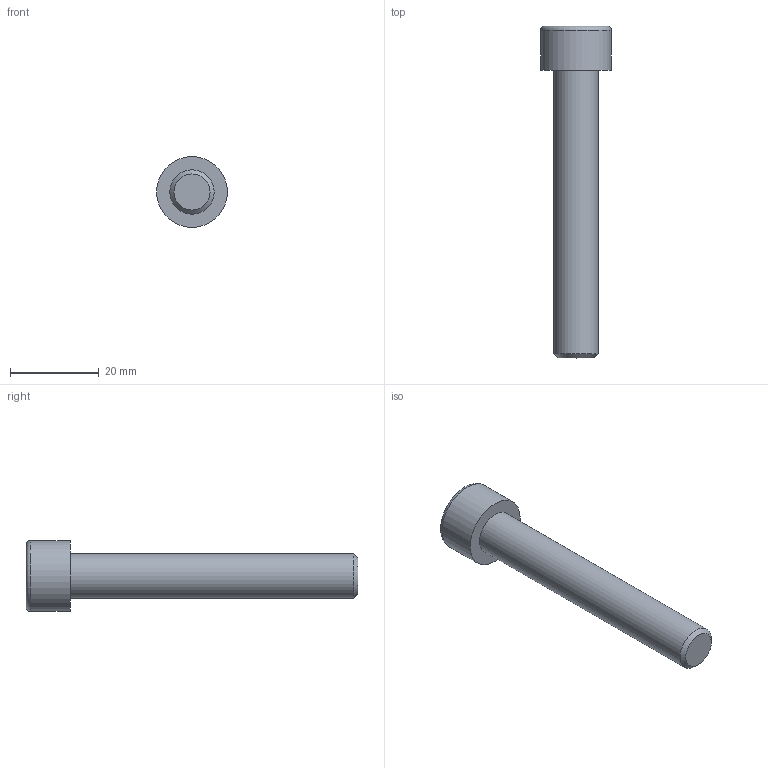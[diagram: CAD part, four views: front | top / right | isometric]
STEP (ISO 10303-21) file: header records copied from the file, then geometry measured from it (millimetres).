
FILE_DESCRIPTION(/* description */ (''),/* implementation_level */ '2;1');
FILE_NAME(/* name */ 'C:\Users\D\Documents\Inventor\各種小物\JIS\JIS B 1176 六角穴付きボルト\M10x65.stp',/* time_stamp */ '2022-05-09T18:52:07+09:00',/* author */ ('D'),/* organization */ (''),/* preprocessor_version */ 'ST-DEVELOPER v18',/* originating_system */ 'Autodesk Inventor 2020',/* authorisation */ '');
FILE_SCHEMA (('AUTOMOTIVE_DESIGN { 1 0 10303 214 3 1 1 }'));
Length unit declared in the file: millimetre
Products named in the file (1): M1.6x2.5
Bounding box: 16 x 75 x 16 mm (x, y, z)
Volume: 6757.7 mm3; surface area: 3060.4 mm2
Topology: 1 solids, 1 shells, 14 faces, 33 edges, 22 vertices
Faces by surface type: plane 9, cone 2, cylinder 2, torus 1
Full cylindrical faces by diameter (mm): 10 x1, 16 x1
Entity records: 435 total; most frequent: CARTESIAN_POINT 83, ORIENTED_EDGE 64, DIRECTION 64, EDGE_CURVE 32, AXIS2_PLACEMENT_3D 24, VERTEX_POINT 22, EDGE_LOOP 16, LINE 16
